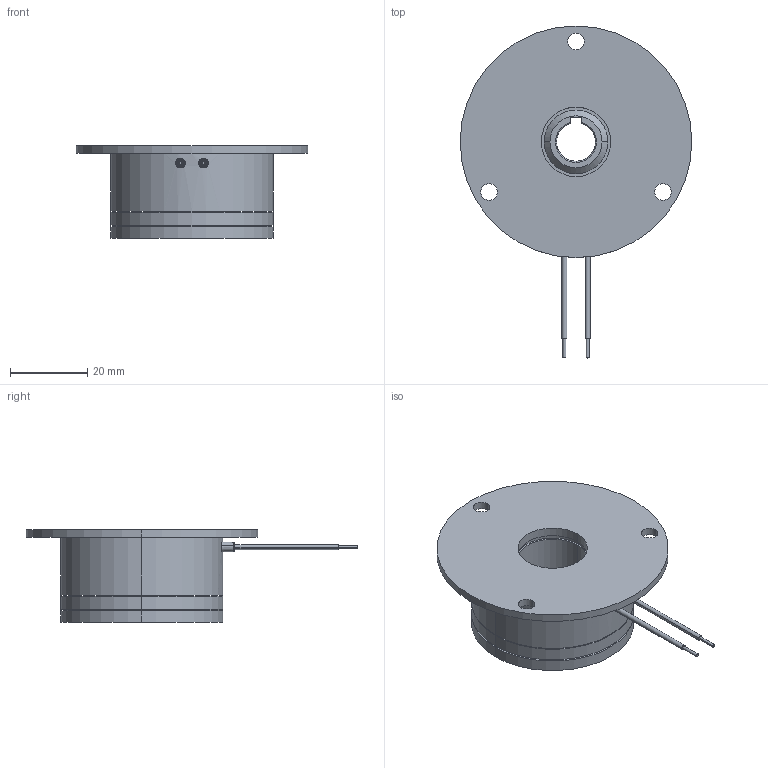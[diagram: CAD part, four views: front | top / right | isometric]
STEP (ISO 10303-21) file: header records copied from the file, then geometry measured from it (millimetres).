
FILE_DESCRIPTION (( 'STEP AP214' ), '1' );
FILE_NAME ('dr_bk_0402-120_mu.STEP', '2021-11-10T09:53:49', ( '' ), ( '' ), 'SwSTEP 2.0', 'SolidWorks 2019', '' );
FILE_SCHEMA (( 'AUTOMOTIVE_DESIGN' ));
Length unit declared in the file: millimetre
Products named in the file (11): 10068761_000; 10068764_000_Eingebaut in 0402020-; dr_bk_0402-120_mu; 10068762_000; 10068763_000; 10068766_000; 10068686_000; 10068758_000_genietet (2,45mm Klemml„nge); 10068760_000; 10068765_000; 10068759_000_01.02.331-0062 Nabe
Assembly tree (14 placements, depth 4):
  dr_bk_0402-120_mu
    10068686_000
    10068763_000
      10068759_000_01.02.331-0062 Nabe
      10068761_000
        10068762_000
        10068765_000
        10068766_000  x2
        10068758_000_genietet (2,45mm Klemml„nge)  x2
      10068764_000_Eingebaut in 0402020-  x2
      10068760_000  x2
Bounding box: 60 x 86 x 24 mm (x, y, z)
Volume: 30751.2 mm3; surface area: 18193.2 mm2
Topology: 14 solids, 14 shells, 236 faces, 520 edges, 318 vertices
Faces by surface type: cylinder 117, cone 56, plane 35, torus 20, sphere 8
Entity records: 6583 total; most frequent: DIRECTION 1052, CARTESIAN_POINT 1031, ORIENTED_EDGE 812, AXIS2_PLACEMENT_3D 455, EDGE_CURVE 406, VERTEX_POINT 254, CIRCLE 252, EDGE_LOOP 238
